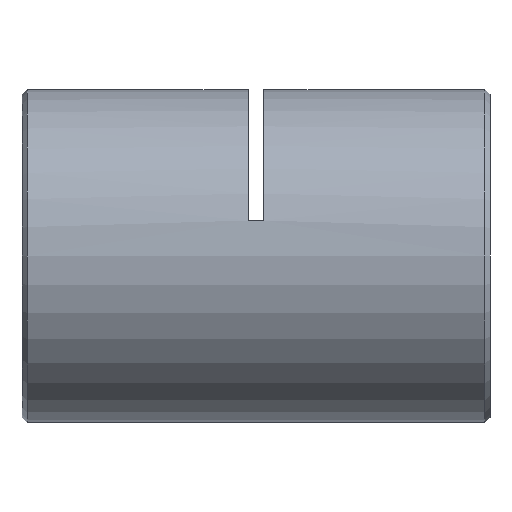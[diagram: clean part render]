
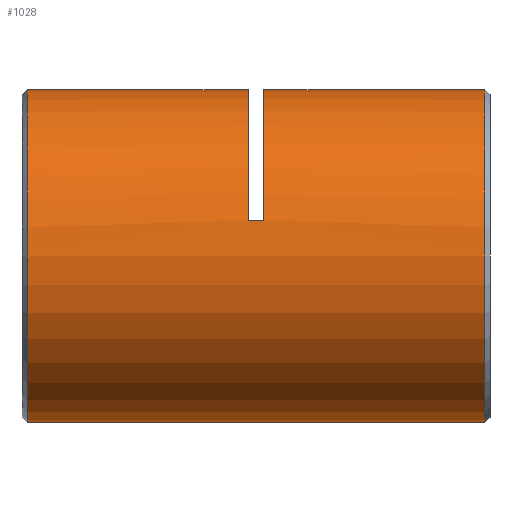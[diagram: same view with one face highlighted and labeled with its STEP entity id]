
A CAD part, left-side view. The second image highlights one B-rep face of the part: STEP entity #1028.
In plain terms, the highlighted cylindrical face has radius 16 mm (diameter 32 mm), a partial arc.
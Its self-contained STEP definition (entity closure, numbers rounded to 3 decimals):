
#87 = ORIENTED_EDGE ( 'NONE', *, *, #5982, .T. ) ;
#112 = CARTESIAN_POINT ( 'NONE',  ( 0., 0.75, 0. ) ) ;
#176 = VERTEX_POINT ( 'NONE', #389 ) ;
#296 = VERTEX_POINT ( 'NONE', #5833 ) ;
#389 = CARTESIAN_POINT ( 'NONE',  ( 0., 23.5, 16. ) ) ;
#532 = VERTEX_POINT ( 'NONE', #4825 ) ;
#542 = VERTEX_POINT ( 'NONE', #4761 ) ;
#550 = EDGE_CURVE ( 'NONE', #4854, #5825, #4385, .T. ) ;
#843 = ORIENTED_EDGE ( 'NONE', *, *, #4646, .T. ) ;
#845 = LINE ( 'NONE', #6226, #4860 ) ;
#858 = EDGE_CURVE ( 'NONE', #532, #1814, #845, .T. ) ;
#879 = DIRECTION ( 'NONE',  ( 0., 1., 0. ) ) ;
#905 = EDGE_CURVE ( 'NONE', #2488, #5825, #1378, .T. ) ;
#913 = CARTESIAN_POINT ( 'NONE',  ( 0., 0., 16. ) ) ;
#1028 = ADVANCED_FACE ( 'NONE', ( #4980 ), #4518, .T. ) ;
#1057 = DIRECTION ( 'NONE',  ( 0., 0., 1. ) ) ;
#1062 = ORIENTED_EDGE ( 'NONE', *, *, #858, .T. ) ;
#1076 = CARTESIAN_POINT ( 'NONE',  ( 0., 23.5, 0. ) ) ;
#1099 = CIRCLE ( 'NONE', #6351, 16. ) ;
#1144 = ORIENTED_EDGE ( 'NONE', *, *, #905, .F. ) ;
#1235 = CARTESIAN_POINT ( 'NONE',  ( 0., 44.75, 16. ) ) ;
#1378 = LINE ( 'NONE', #5292, #2179 ) ;
#1410 = DIRECTION ( 'NONE',  ( 0., 1., 0. ) ) ;
#1548 = CARTESIAN_POINT ( 'NONE',  ( 0., 0., 16. ) ) ;
#1598 = AXIS2_PLACEMENT_3D ( 'NONE', #6087, #4519, #3627 ) ;
#1610 = EDGE_LOOP ( 'NONE', ( #1144, #3293, #87, #2013, #1062, #843, #4920, #4164 ) ) ;
#1708 = CIRCLE ( 'NONE', #1806, 16. ) ;
#1806 = AXIS2_PLACEMENT_3D ( 'NONE', #1076, #4363, #3392 ) ;
#1814 = VERTEX_POINT ( 'NONE', #4442 ) ;
#2013 = ORIENTED_EDGE ( 'NONE', *, *, #6247, .F. ) ;
#2179 = VECTOR ( 'NONE', #879, 1000. ) ;
#2364 = CARTESIAN_POINT ( 'NONE',  ( 0., 44.75, 0. ) ) ;
#2488 = VERTEX_POINT ( 'NONE', #3287 ) ;
#2492 = AXIS2_PLACEMENT_3D ( 'NONE', #3502, #5480, #5008 ) ;
#2832 = AXIS2_PLACEMENT_3D ( 'NONE', #2364, #3394, #3774 ) ;
#2866 = DIRECTION ( 'NONE',  ( 0., 1., 0. ) ) ;
#3094 = DIRECTION ( 'NONE',  ( 0., 1., 0. ) ) ;
#3287 = CARTESIAN_POINT ( 'NONE',  ( 0., 0.75, -16. ) ) ;
#3293 = ORIENTED_EDGE ( 'NONE', *, *, #3987, .T. ) ;
#3358 = LINE ( 'NONE', #913, #6018 ) ;
#3392 = DIRECTION ( 'NONE',  ( 0., 0., 1. ) ) ;
#3394 = DIRECTION ( 'NONE',  ( 0., -1., 0. ) ) ;
#3502 = CARTESIAN_POINT ( 'NONE',  ( 0., 0., 0. ) ) ;
#3627 = DIRECTION ( 'NONE',  ( 0., 0., 1. ) ) ;
#3684 = LINE ( 'NONE', #1548, #4494 ) ;
#3774 = DIRECTION ( 'NONE',  ( 0., 0., -1. ) ) ;
#3918 = EDGE_CURVE ( 'NONE', #176, #4854, #3684, .T. ) ;
#3987 = EDGE_CURVE ( 'NONE', #2488, #542, #1099, .T. ) ;
#4121 = CARTESIAN_POINT ( 'NONE',  ( 0., 44.75, -16. ) ) ;
#4164 = ORIENTED_EDGE ( 'NONE', *, *, #550, .T. ) ;
#4363 = DIRECTION ( 'NONE',  ( 0., 1., 0. ) ) ;
#4371 = CIRCLE ( 'NONE', #1598, 16. ) ;
#4385 = CIRCLE ( 'NONE', #2832, 16. ) ;
#4442 = CARTESIAN_POINT ( 'NONE',  ( -15.632, 23.5, 3.413 ) ) ;
#4469 = DIRECTION ( 'NONE',  ( 0., 1., 0. ) ) ;
#4494 = VECTOR ( 'NONE', #4469, 1000. ) ;
#4518 = CYLINDRICAL_SURFACE ( 'NONE', #2492, 16. ) ;
#4519 = DIRECTION ( 'NONE',  ( 0., 1., 0. ) ) ;
#4646 = EDGE_CURVE ( 'NONE', #1814, #176, #1708, .T. ) ;
#4761 = CARTESIAN_POINT ( 'NONE',  ( 0., 0.75, 16. ) ) ;
#4825 = CARTESIAN_POINT ( 'NONE',  ( -15.632, 22., 3.413 ) ) ;
#4854 = VERTEX_POINT ( 'NONE', #1235 ) ;
#4860 = VECTOR ( 'NONE', #1410, 1000. ) ;
#4920 = ORIENTED_EDGE ( 'NONE', *, *, #3918, .T. ) ;
#4980 = FACE_OUTER_BOUND ( 'NONE', #1610, .T. ) ;
#5008 = DIRECTION ( 'NONE',  ( 0., 0., 1. ) ) ;
#5292 = CARTESIAN_POINT ( 'NONE',  ( 0., 0., -16. ) ) ;
#5480 = DIRECTION ( 'NONE',  ( 0., 1., 0. ) ) ;
#5825 = VERTEX_POINT ( 'NONE', #4121 ) ;
#5833 = CARTESIAN_POINT ( 'NONE',  ( 0., 22., 16. ) ) ;
#5982 = EDGE_CURVE ( 'NONE', #542, #296, #3358, .T. ) ;
#6018 = VECTOR ( 'NONE', #2866, 1000. ) ;
#6087 = CARTESIAN_POINT ( 'NONE',  ( 0., 22., 0. ) ) ;
#6226 = CARTESIAN_POINT ( 'NONE',  ( -15.632, 22.75, 3.413 ) ) ;
#6247 = EDGE_CURVE ( 'NONE', #532, #296, #4371, .T. ) ;
#6351 = AXIS2_PLACEMENT_3D ( 'NONE', #112, #3094, #1057 ) ;
